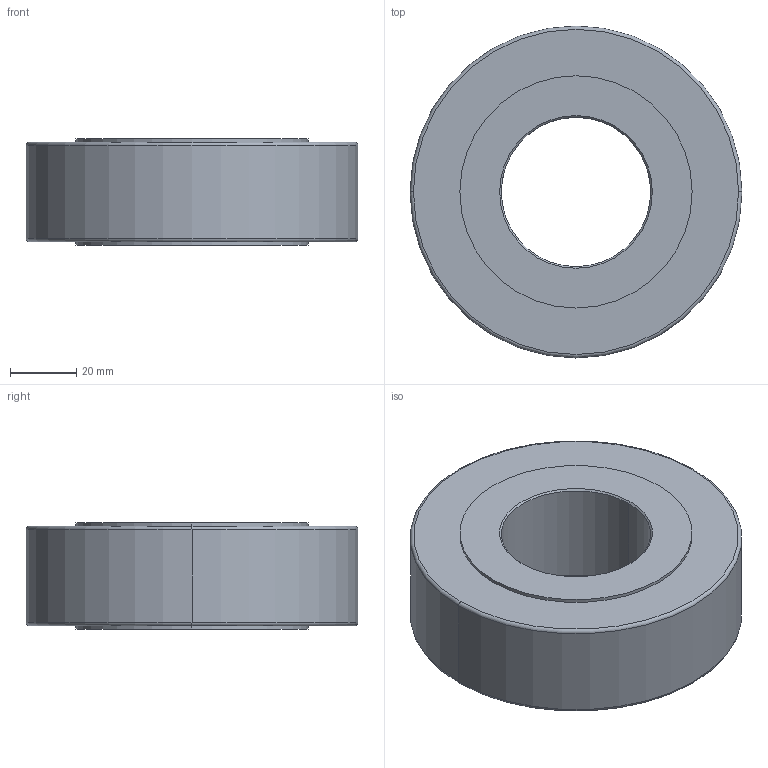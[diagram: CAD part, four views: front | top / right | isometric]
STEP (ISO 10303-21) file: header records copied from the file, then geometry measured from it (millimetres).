
FILE_DESCRIPTION (( 'STEP AP214' ), '1' );
FILE_NAME ('3DNUTR45-100.STEP', '2013-12-18T09:37:49', ( 'usuario' ), ( 'Hewlett-Packard Company' ), 'SwSTEP 2.0', 'SolidWorks 2017', '' );
FILE_SCHEMA (( 'AUTOMOTIVE_DESIGN' ));
Length unit declared in the file: millimetre
Products named in the file (1): 3DNUTR45-100
Bounding box: 100 x 100 x 32 mm (x, y, z)
Volume: 192252.7 mm3; surface area: 26562.9 mm2
Topology: 1 solids, 1 shells, 20 faces, 40 edges, 24 vertices
Faces by surface type: cylinder 8, cone 4, torus 4, plane 4
Entity records: 566 total; most frequent: DIRECTION 110, CARTESIAN_POINT 85, ORIENTED_EDGE 80, AXIS2_PLACEMENT_3D 49, EDGE_CURVE 40, CIRCLE 28, EDGE_LOOP 24, VERTEX_POINT 24
